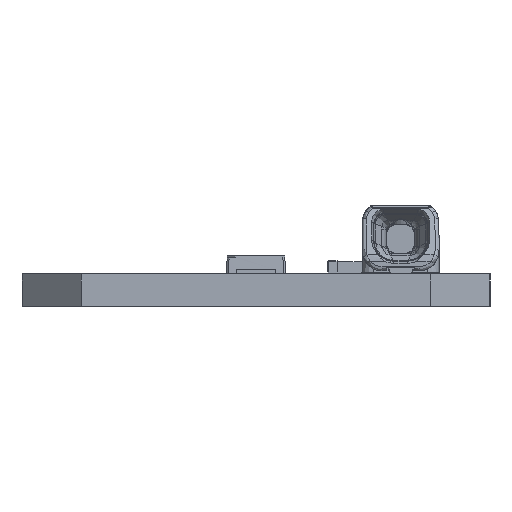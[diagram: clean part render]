
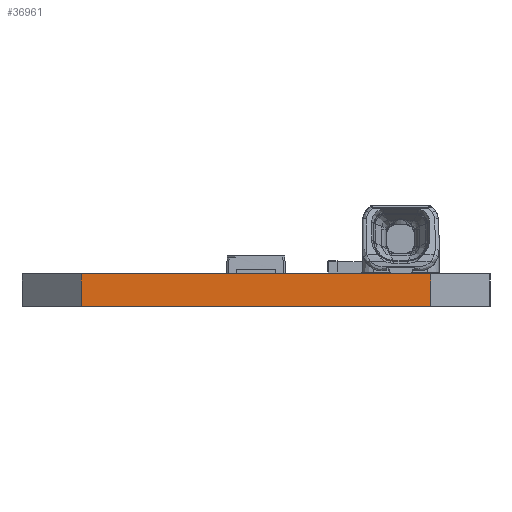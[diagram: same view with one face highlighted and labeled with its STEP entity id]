
A CAD part, left-side view. The second image highlights one B-rep face of the part: STEP entity #36961.
In plain terms, the highlighted planar face has unit normal (-1, 0, 0).
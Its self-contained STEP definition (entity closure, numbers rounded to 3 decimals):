
#1881=DIRECTION('',(0.,0.,1.));
#1882=VECTOR('',#1881,1.65);
#1883=CARTESIAN_POINT('',(-279.5,8.8,0.));
#1884=LINE('',#1883,#1882);
#1888=DIRECTION('',(0.,-1.,0.));
#1889=VECTOR('',#1888,17.6);
#1890=CARTESIAN_POINT('',(-279.5,8.8,1.65));
#1891=LINE('',#1890,#1889);
#1895=DIRECTION('',(0.,0.,1.));
#1896=VECTOR('',#1895,1.65);
#1897=CARTESIAN_POINT('',(-279.5,-8.8,0.));
#1898=LINE('',#1897,#1896);
#2165=DIRECTION('',(0.,-1.,0.));
#2166=VECTOR('',#2165,17.6);
#2167=CARTESIAN_POINT('',(-279.5,8.8,0.));
#2168=LINE('',#2167,#2166);
#30816=CARTESIAN_POINT('',(-279.5,-8.8,1.65));
#30817=VERTEX_POINT('',#30816);
#30818=CARTESIAN_POINT('',(-279.5,8.8,1.65));
#30819=VERTEX_POINT('',#30818);
#31579=CARTESIAN_POINT('',(-279.5,8.8,0.));
#31580=VERTEX_POINT('',#31579);
#31581=CARTESIAN_POINT('',(-279.5,-8.8,0.));
#31582=VERTEX_POINT('',#31581);
#36948=CARTESIAN_POINT('',(-279.5,0.,0.825));
#36949=DIRECTION('',(1.,0.,0.));
#36950=DIRECTION('',(0.,0.,1.));
#36951=AXIS2_PLACEMENT_3D('',#36948,#36949,#36950);
#36952=PLANE('',#36951);
#36954=ORIENTED_EDGE('',*,*,#36953,.F.);
#36956=ORIENTED_EDGE('',*,*,#36955,.F.);
#36957=ORIENTED_EDGE('',*,*,#36932,.T.);
#36958=ORIENTED_EDGE('',*,*,#35580,.T.);
#36959=EDGE_LOOP('',(#36954,#36956,#36957,#36958));
#36960=FACE_OUTER_BOUND('',#36959,.F.);
#35580=EDGE_CURVE('',#30819,#30817,#1891,.T.);
#36932=EDGE_CURVE('',#31580,#30819,#1884,.T.);
#36953=EDGE_CURVE('',#31582,#30817,#1898,.T.);
#36955=EDGE_CURVE('',#31580,#31582,#2168,.T.);
#36961=ADVANCED_FACE('',(#36960),#36952,.F.);
